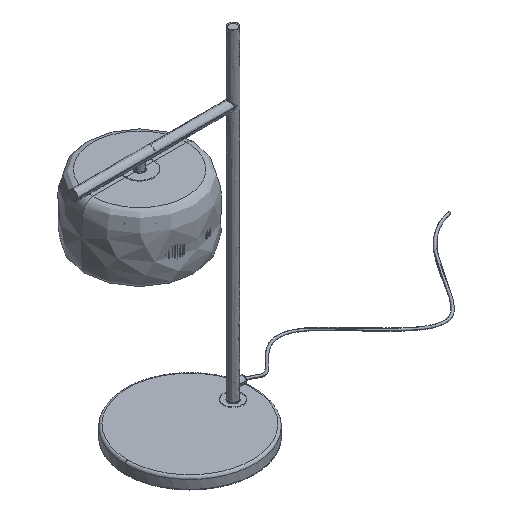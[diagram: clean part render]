
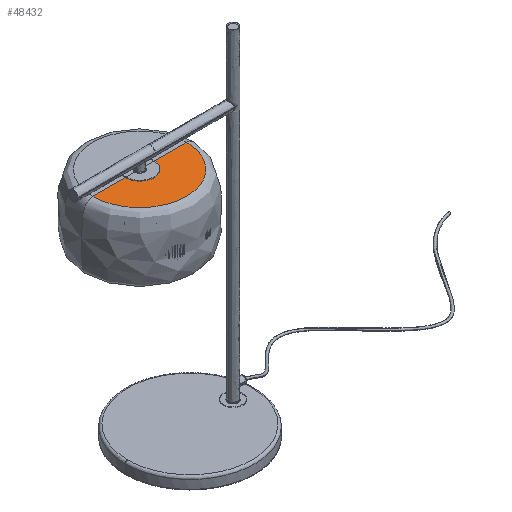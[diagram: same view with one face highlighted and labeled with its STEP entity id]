
A CAD part, isometric view. The second image highlights one B-rep face of the part: STEP entity #48432.
In plain terms, the highlighted free-form (B-spline) face has degree [3, 2] with [4, 9] control points.
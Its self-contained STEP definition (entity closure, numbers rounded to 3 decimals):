
#230 = CARTESIAN_POINT ( 'NONE',  ( -105., -97.763, 538. ) ) ;
#278 = CARTESIAN_POINT ( 'NONE',  ( -95., -10., 538. ) ) ;
#1534 = CARTESIAN_POINT ( 'NONE',  ( -95., 0., 538. ) ) ;
#1637 = ORIENTED_EDGE ( 'NONE', *, *, #52941, .T. ) ;
#2630 = CARTESIAN_POINT ( 'NONE',  ( -95., 0., 538. ) ) ;
#2850 = CARTESIAN_POINT ( 'NONE',  ( -36.492, 68.508, 538. ) ) ;
#2891 = CARTESIAN_POINT ( 'NONE',  ( -173.508, 0., 538. ) ) ;
#3419 = CARTESIAN_POINT ( 'NONE',  ( -202.763, -97.763, 538. ) ) ;
#4201 = EDGE_CURVE ( 'NONE', #53604, #5515, #17631, .T. ) ;
#4347 = CARTESIAN_POINT ( 'NONE',  ( -202.763, 0., 538. ) ) ;
#5515 = VERTEX_POINT ( 'NONE', #38750 ) ;
#7022 = CARTESIAN_POINT ( 'NONE',  ( -7.237, 0., 538. ) ) ;
#7244 = CARTESIAN_POINT ( 'NONE',  ( -65.746, 0., 538. ) ) ;
#7944 = CARTESIAN_POINT ( 'NONE',  ( -115., 0., 538. ) ) ;
#8376 = CARTESIAN_POINT ( 'NONE',  ( -36.492, -68.508, 538. ) ) ;
#9733 = VERTEX_POINT ( 'NONE', #1534 ) ;
#10845 = CARTESIAN_POINT ( 'NONE',  ( -65.746, 0., 538. ) ) ;
#11672 = CARTESIAN_POINT ( 'NONE',  ( -202.763, 0., 538. ) ) ;
#11957 = CARTESIAN_POINT ( 'NONE',  ( -115., 10., 538. ) ) ;
#12246 = CARTESIAN_POINT ( 'NONE',  ( -115., 0., 538. ) ) ;
#13813 = CARTESIAN_POINT ( 'NONE',  ( -105., -10., 538. ) ) ;
#16400 = CARTESIAN_POINT ( 'NONE',  ( -115., 0., 538. ) ) ;
#16462 = CARTESIAN_POINT ( 'NONE',  ( -36.492, 0., 538. ) ) ;
#16717 = CARTESIAN_POINT ( 'NONE',  ( -115., 0., 538. ) ) ;
#16955 = CARTESIAN_POINT ( 'NONE',  ( -115., -10., 538. ) ) ;
#17239 = CARTESIAN_POINT ( 'NONE',  ( -7.237, 0., 538. ) ) ;
#17631 = B_SPLINE_CURVE_WITH_KNOTS ( 'NONE', 3,
 ( #43207, #2891, #34952, #16717 ),
 .UNSPECIFIED., .F., .F.,
 ( 4, 4 ),
 ( -183.789, -12.405 ),
 .UNSPECIFIED. ) ;
#19436 = ORIENTED_EDGE ( 'NONE', *, *, #29314, .T. ) ;
#20500 = CARTESIAN_POINT ( 'NONE',  ( -105., 68.508, 538. ) ) ;
#20800 = CARTESIAN_POINT ( 'NONE',  ( -105., -68.508, 538. ) ) ;
#21374 = CARTESIAN_POINT ( 'NONE',  ( -105., -10., 538. ) ) ;
#24434 = EDGE_LOOP ( 'NONE', ( #44046, #1637, #19436, #42115 ) ) ;
#25228 = CARTESIAN_POINT ( 'NONE',  ( -65.746, -39.254, 538. ) ) ;
#25517 = CARTESIAN_POINT ( 'NONE',  ( -173.508, 0., 538. ) ) ;
#25803 = CARTESIAN_POINT ( 'NONE',  ( -173.508, 68.508, 538. ) ) ;
#26089 = CARTESIAN_POINT ( 'NONE',  ( -173.508, -68.508, 538. ) ) ;
#26373 = CARTESIAN_POINT ( 'NONE',  ( -144.254, 39.254, 538. ) ) ;
#29314 = EDGE_CURVE ( 'NONE', #9733, #5515, #39924, .T. ) ;
#29660 = CARTESIAN_POINT ( 'NONE',  ( -144.254, 0., 538. ) ) ;
#30236 = CARTESIAN_POINT ( 'NONE',  ( -105., 10., 538. ) ) ;
#30524 = FACE_OUTER_BOUND ( 'NONE', #24434, .T. ) ;
#30799 = CARTESIAN_POINT ( 'NONE',  ( -202.763, 0., 538. ) ) ;
#31210 = CARTESIAN_POINT ( 'NONE',  ( -95., 0., 538. ) ) ;
#31452 = CARTESIAN_POINT ( 'NONE',  ( -202.763, -97.763, 538. ) ) ;
#31790 = CARTESIAN_POINT ( 'NONE',  ( -115., -10., 538. ) ) ;
#34065 = CARTESIAN_POINT ( 'NONE',  ( -105., 39.254, 538. ) ) ;
#34638 = CARTESIAN_POINT ( 'NONE',  ( -105., 97.763, 538. ) ) ;
#34910 = CARTESIAN_POINT ( 'NONE',  ( -7.237, 97.763, 538. ) ) ;
#34952 = CARTESIAN_POINT ( 'NONE',  ( -144.254, 0., 538. ) ) ;
#36432 = CARTESIAN_POINT ( 'NONE',  ( -7.237, -97.763, 538. ) ) ;
#38750 = CARTESIAN_POINT ( 'NONE',  ( -115., 0., 538. ) ) ;
#38772 = CARTESIAN_POINT ( 'NONE',  ( -95., -10., 538. ) ) ;
#39332 = CARTESIAN_POINT ( 'NONE',  ( -7.237, -97.763, 538. ) ) ;
#39924 =( BOUNDED_CURVE ( )  B_SPLINE_CURVE ( 2, ( #31210, #278, #13813, #31790, #7944 ),
 .UNSPECIFIED., .F., .T. ) 
 B_SPLINE_CURVE_WITH_KNOTS ( ( 3, 2, 3 ),
 ( 0., 0.5, 1. ),
 .UNSPECIFIED. ) 
 CURVE ( )  GEOMETRIC_REPRESENTATION_ITEM ( )  RATIONAL_B_SPLINE_CURVE ( ( 1., 0.707, 1., 0.707, 1. ) ) 
 REPRESENTATION_ITEM ( '' )  );
#42115 = ORIENTED_EDGE ( 'NONE', *, *, #4201, .F. ) ;
#42350 = CARTESIAN_POINT ( 'NONE',  ( -7.237, 0., 538. ) ) ;
#43170 = CARTESIAN_POINT ( 'NONE',  ( -105., -39.254, 538. ) ) ;
#43207 = CARTESIAN_POINT ( 'NONE',  ( -202.763, 0., 538. ) ) ;
#44020 = CARTESIAN_POINT ( 'NONE',  ( -173.508, 0., 538. ) ) ;
#44046 = ORIENTED_EDGE ( 'NONE', *, *, #55324, .F. ) ;
#44669 = CARTESIAN_POINT ( 'NONE',  ( -7.237, 0., 538. ) ) ;
#47386 =( BOUNDED_SURFACE ( )  B_SPLINE_SURFACE ( 3, 2, ( 
 ( #11672, #57539, #34638, #34910, #17239, #39332, #52855, #3419, #30799 ),
 ( #25517, #25803, #20500, #2850, #53146, #8376, #20800, #26089, #44020 ),
 ( #29660, #26373, #34065, #47582, #7244, #25228, #43170, #57259, #52570 ),
 ( #12246, #11957, #30236, #56693, #48164, #38772, #21374, #16955, #16400 ) ),
 .UNSPECIFIED., .F., .T., .T. ) 
 B_SPLINE_SURFACE_WITH_KNOTS ( ( 4, 4 ),
 ( 3, 2, 2, 2, 3 ),
 ( -183.789, -12.405 ),
 ( 0., 191.105, 382.21, 573.315, 764.42 ),
 .UNSPECIFIED. ) 
 GEOMETRIC_REPRESENTATION_ITEM ( )  RATIONAL_B_SPLINE_SURFACE ( (
 ( 1., 0.707, 1., 0.707, 1., 0.707, 1., 0.707, 1.),
 ( 1., 0.707, 1., 0.707, 1., 0.707, 1., 0.707, 1.),
 ( 1., 0.707, 1., 0.707, 1., 0.707, 1., 0.707, 1.),
 ( 1., 0.707, 1., 0.707, 1., 0.707, 1., 0.707, 1.) ) ) 
 REPRESENTATION_ITEM ( '' )  SURFACE ( )  );
#47582 = CARTESIAN_POINT ( 'NONE',  ( -65.746, 39.254, 538. ) ) ;
#48071 = VERTEX_POINT ( 'NONE', #42350 ) ;
#48164 = CARTESIAN_POINT ( 'NONE',  ( -95., 0., 538. ) ) ;
#48432 = ADVANCED_FACE ( 'NONE', ( #30524 ), #47386, .T. ) ;
#50479 = B_SPLINE_CURVE_WITH_KNOTS ( 'NONE', 3,
 ( #7022, #16462, #10845, #2630 ),
 .UNSPECIFIED., .F., .F.,
 ( 4, 4 ),
 ( -183.789, -12.405 ),
 .UNSPECIFIED. ) ;
#52570 = CARTESIAN_POINT ( 'NONE',  ( -144.254, 0., 538. ) ) ;
#52855 = CARTESIAN_POINT ( 'NONE',  ( -105., -97.763, 538. ) ) ;
#52941 = EDGE_CURVE ( 'NONE', #48071, #9733, #50479, .T. ) ;
#53146 = CARTESIAN_POINT ( 'NONE',  ( -36.492, 0., 538. ) ) ;
#53604 = VERTEX_POINT ( 'NONE', #55977 ) ;
#55324 = EDGE_CURVE ( 'NONE', #48071, #53604, #55424, .T. ) ;
#55424 =( BOUNDED_CURVE ( )  B_SPLINE_CURVE ( 2, ( #44669, #36432, #230, #31452, #4347 ),
 .UNSPECIFIED., .F., .F. ) 
 B_SPLINE_CURVE_WITH_KNOTS ( ( 3, 2, 3 ),
 ( 382.21, 573.315, 764.42 ),
 .UNSPECIFIED. ) 
 CURVE ( )  GEOMETRIC_REPRESENTATION_ITEM ( )  RATIONAL_B_SPLINE_CURVE ( ( 1., 0.707, 1., 0.707, 1. ) ) 
 REPRESENTATION_ITEM ( '' )  );
#55977 = CARTESIAN_POINT ( 'NONE',  ( -202.763, 0., 538. ) ) ;
#56693 = CARTESIAN_POINT ( 'NONE',  ( -95., 10., 538. ) ) ;
#57259 = CARTESIAN_POINT ( 'NONE',  ( -144.254, -39.254, 538. ) ) ;
#57539 = CARTESIAN_POINT ( 'NONE',  ( -202.763, 97.763, 538. ) ) ;
